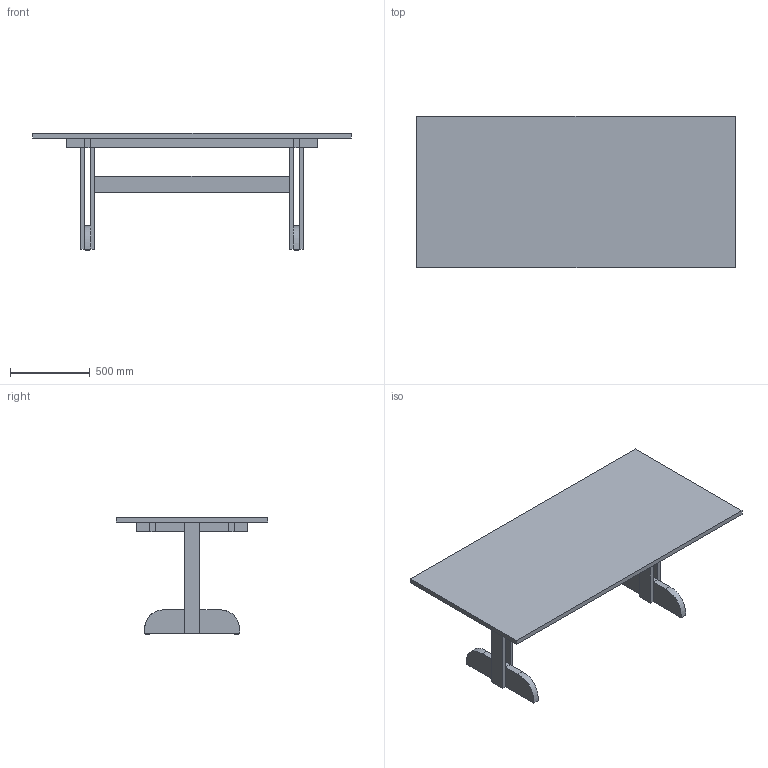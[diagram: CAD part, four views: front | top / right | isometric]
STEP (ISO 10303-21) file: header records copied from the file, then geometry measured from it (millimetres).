
FILE_DESCRIPTION (( 'STEP AP214' ), '1' );
FILE_NAME ('Puffin Table 200x95 rectangular.STEP', '2026-06-03T14:14:02', ( '' ), ( '' ), 'SwSTEP 2.0', 'SolidWorks 2024', '' );
FILE_SCHEMA (( 'AUTOMOTIVE_DESIGN' ));
Length unit declared in the file: millimetre
Products named in the file (1): Puffin Table 200x95 rectangular
Bounding box: 2000 x 950 x 737.5 mm (x, y, z)
Volume: 84806725.4 mm3; surface area: 6360808 mm2
Topology: 12 solids, 12 shells, 118 faces, 274 edges, 184 vertices
Faces by surface type: plane 106, cylinder 8, bspline 4
Entity records: 3224 total; most frequent: CARTESIAN_POINT 857, ORIENTED_EDGE 548, DIRECTION 284, EDGE_CURVE 274, B_SPLINE_CURVE_WITH_KNOTS 236, VERTEX_POINT 184, AXIS2_PLACEMENT_3D 131, EDGE_LOOP 122
